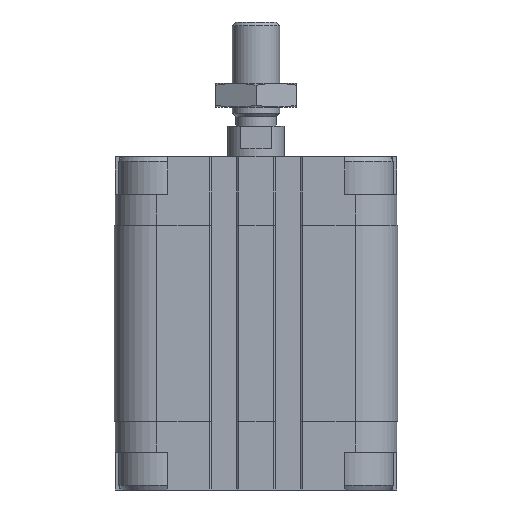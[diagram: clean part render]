
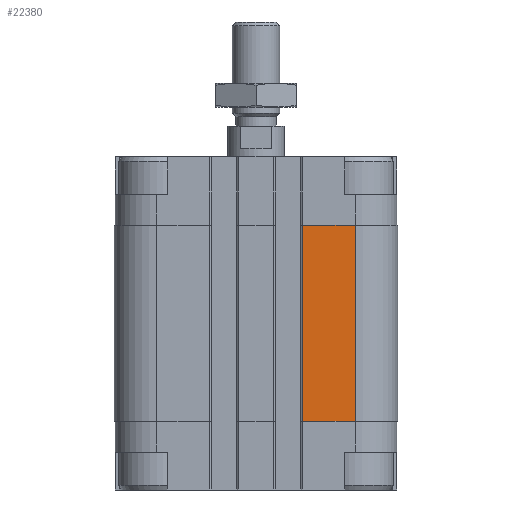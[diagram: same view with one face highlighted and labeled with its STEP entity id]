
A CAD part, front view. The second image highlights one B-rep face of the part: STEP entity #22380.
In plain terms, the highlighted planar face has unit normal (0, -1, 0).
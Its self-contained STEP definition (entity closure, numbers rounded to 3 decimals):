
#140 = DIRECTION ( 'NONE',  ( 1., 0., 0. ) ) ;
#862 = EDGE_CURVE ( 'NONE', #14796, #11470, #5409, .T. ) ;
#1586 = CARTESIAN_POINT ( 'NONE',  ( 9.85, -30., -56. ) ) ;
#1988 = LINE ( 'NONE', #21835, #4939 ) ;
#2070 = DIRECTION ( 'NONE',  ( 0., -1., 0. ) ) ;
#2749 = CARTESIAN_POINT ( 'NONE',  ( 21., -30., -14.5 ) ) ;
#2941 = EDGE_LOOP ( 'NONE', ( #3984, #13698, #13183, #4524 ) ) ;
#3510 = EDGE_CURVE ( 'NONE', #14796, #22926, #15108, .T. ) ;
#3984 = ORIENTED_EDGE ( 'NONE', *, *, #21932, .F. ) ;
#4443 = VERTEX_POINT ( 'NONE', #2749 ) ;
#4524 = ORIENTED_EDGE ( 'NONE', *, *, #8685, .T. ) ;
#4700 = CARTESIAN_POINT ( 'NONE',  ( 9.85, -30., -14.5 ) ) ;
#4939 = VECTOR ( 'NONE', #140, 1000. ) ;
#5409 = LINE ( 'NONE', #1586, #9768 ) ;
#5558 = CARTESIAN_POINT ( 'NONE',  ( 9.85, -30., -56. ) ) ;
#5861 = CARTESIAN_POINT ( 'NONE',  ( 9.85, -30., -56. ) ) ;
#5999 = CARTESIAN_POINT ( 'NONE',  ( 21., -30., -56. ) ) ;
#7197 = FACE_OUTER_BOUND ( 'NONE', #2941, .T. ) ;
#7856 = DIRECTION ( 'NONE',  ( 0., 0., 1. ) ) ;
#8685 = EDGE_CURVE ( 'NONE', #11470, #4443, #16674, .T. ) ;
#9768 = VECTOR ( 'NONE', #13775, 1000. ) ;
#10795 = PLANE ( 'NONE',  #22730 ) ;
#11297 = CARTESIAN_POINT ( 'NONE',  ( 9.85, -30., -56. ) ) ;
#11470 = VERTEX_POINT ( 'NONE', #17232 ) ;
#13183 = ORIENTED_EDGE ( 'NONE', *, *, #862, .T. ) ;
#13435 = DIRECTION ( 'NONE',  ( -1., 0., 0. ) ) ;
#13698 = ORIENTED_EDGE ( 'NONE', *, *, #3510, .F. ) ;
#13775 = DIRECTION ( 'NONE',  ( 1., 0., 0. ) ) ;
#14796 = VERTEX_POINT ( 'NONE', #5861 ) ;
#14997 = DIRECTION ( 'NONE',  ( 0., 0., 1. ) ) ;
#15108 = LINE ( 'NONE', #11297, #18017 ) ;
#16674 = LINE ( 'NONE', #5999, #18041 ) ;
#17232 = CARTESIAN_POINT ( 'NONE',  ( 21., -30., -56. ) ) ;
#18017 = VECTOR ( 'NONE', #14997, 1000. ) ;
#18041 = VECTOR ( 'NONE', #7856, 1000. ) ;
#21835 = CARTESIAN_POINT ( 'NONE',  ( 9.85, -30., -14.5 ) ) ;
#21932 = EDGE_CURVE ( 'NONE', #22926, #4443, #1988, .T. ) ;
#22380 = ADVANCED_FACE ( 'NONE', ( #7197 ), #10795, .T. ) ;
#22730 = AXIS2_PLACEMENT_3D ( 'NONE', #5558, #2070, #13435 ) ;
#22926 = VERTEX_POINT ( 'NONE', #4700 ) ;
